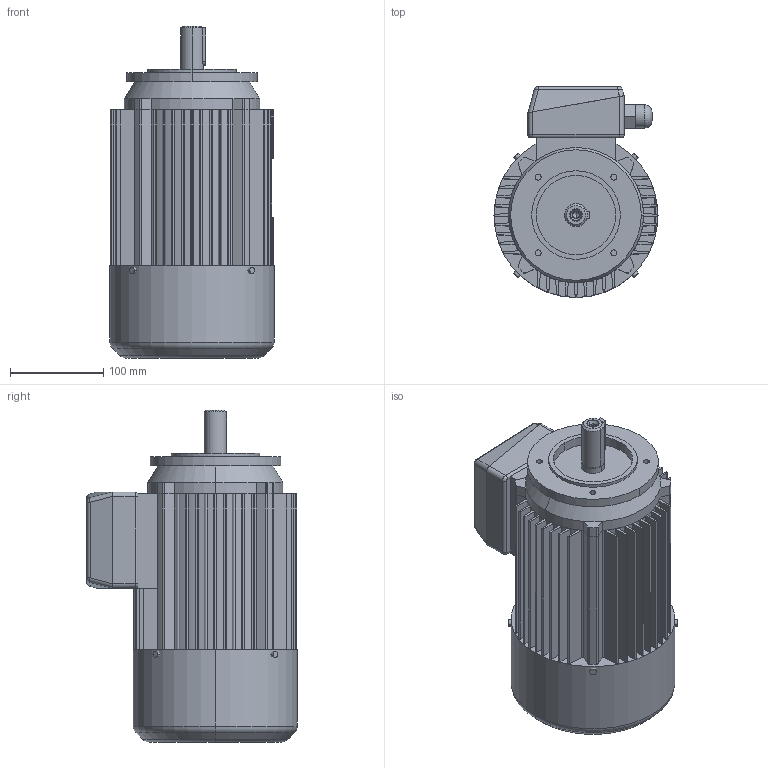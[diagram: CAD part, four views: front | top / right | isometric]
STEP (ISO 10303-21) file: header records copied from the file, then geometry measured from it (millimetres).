
FILE_DESCRIPTION (( 'STEP AP203' ), '1' );
FILE_NAME ('2SIEK90L4,6-B14-C2.STEP', '2013-01-07T12:50:04', ( 'INDUKTA' ), ( 'CANTONI MOTOR' ), 'SwSTEP 2.0', 'SolidWorks 2003064', '' );
FILE_SCHEMA (( 'CONFIG_CONTROL_DESIGN' ));
Length unit declared in the file: millimetre
Products named in the file (1): 2SIEK90L4,6-B14-C2
Bounding box: 176 x 226 x 356 mm (x, y, z)
Volume: 6743170.9 mm3; surface area: 497983.2 mm2
Topology: 11 solids, 11 shells, 376 faces, 983 edges, 632 vertices
Faces by surface type: cylinder 178, plane 170, cone 14, torus 10, sphere 4
Entity records: 11658 total; most frequent: DIRECTION 2114, CARTESIAN_POINT 2047, ORIENTED_EDGE 1954, EDGE_CURVE 977, AXIS2_PLACEMENT_3D 771, VERTEX_POINT 632, LINE 572, VECTOR 572
